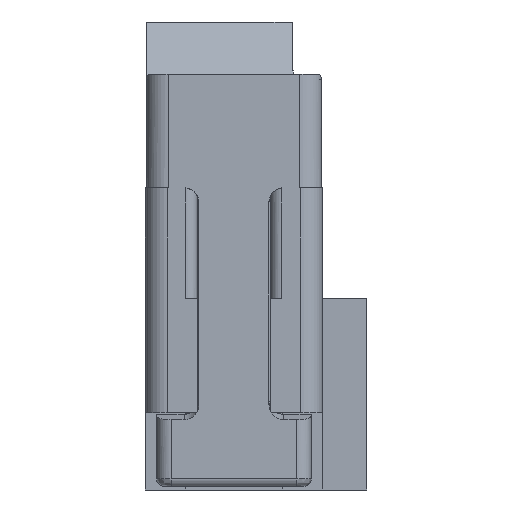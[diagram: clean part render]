
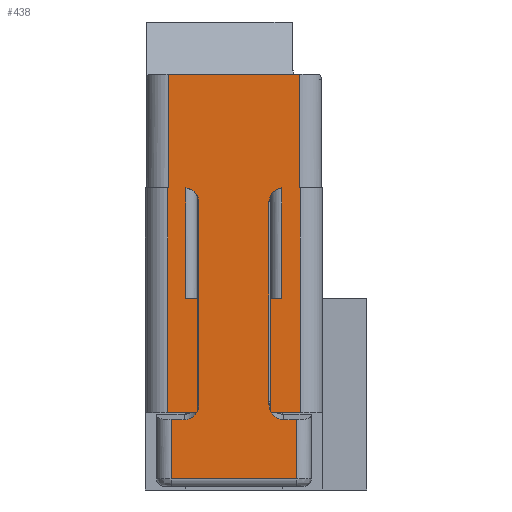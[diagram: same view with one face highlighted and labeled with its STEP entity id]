
A CAD part, front view. The second image highlights one B-rep face of the part: STEP entity #438.
In plain terms, the highlighted planar face has unit normal (0, -1, 0).
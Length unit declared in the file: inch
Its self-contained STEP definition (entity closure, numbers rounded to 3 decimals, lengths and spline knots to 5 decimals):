
#274=FACE_BOUND('',#1869,.T.);
#275=FACE_BOUND('',#1870,.T.);
#341=(
BOUNDED_CURVE()
B_SPLINE_CURVE(3,(#13261,#13262,#13263,#13264,#13265),.UNSPECIFIED.,.F.,
.F.)
B_SPLINE_CURVE_WITH_KNOTS((4,1,4),(0.,0.5,1.),.UNSPECIFIED.)
CURVE()
GEOMETRIC_REPRESENTATION_ITEM()
RATIONAL_B_SPLINE_CURVE((1.067,1.022,0.978,
1.022,1.067))
REPRESENTATION_ITEM('')
);
#342=(
BOUNDED_CURVE()
B_SPLINE_CURVE(3,(#13425,#13426,#13427,#13428,#13429),.UNSPECIFIED.,.F.,
.F.)
B_SPLINE_CURVE_WITH_KNOTS((4,1,4),(0.,0.5,1.),.UNSPECIFIED.)
CURVE()
GEOMETRIC_REPRESENTATION_ITEM()
RATIONAL_B_SPLINE_CURVE((1.016,1.005,0.995,
1.005,1.016))
REPRESENTATION_ITEM('')
);
#343=(
BOUNDED_CURVE()
B_SPLINE_CURVE(3,(#13439,#13440,#13441,#13442,#13443),.UNSPECIFIED.,.F.,
.F.)
B_SPLINE_CURVE_WITH_KNOTS((4,1,4),(0.,0.5,1.),.UNSPECIFIED.)
CURVE()
GEOMETRIC_REPRESENTATION_ITEM()
RATIONAL_B_SPLINE_CURVE((1.016,1.005,0.995,
1.005,1.016))
REPRESENTATION_ITEM('')
);
#350=(
BOUNDED_CURVE()
B_SPLINE_CURVE(3,(#14084,#14085,#14086,#14087,#14088),.UNSPECIFIED.,.F.,
.F.)
B_SPLINE_CURVE_WITH_KNOTS((4,1,4),(0.,0.5,1.),.UNSPECIFIED.)
CURVE()
GEOMETRIC_REPRESENTATION_ITEM()
RATIONAL_B_SPLINE_CURVE((1.067,1.022,0.978,
1.022,1.067))
REPRESENTATION_ITEM('')
);
#438=ADVANCED_FACE('',(#1361,#274,#275),#893,.T.);
#893=PLANE('',#9586);
#1361=FACE_OUTER_BOUND('',#1868,.T.);
#1868=EDGE_LOOP('',(#2976,#2977,#2978,#2979,#2980,#2981,#2982,#2983,#2984,
#2985,#2986,#2987,#2988,#2989,#2990,#2991));
#1869=EDGE_LOOP('',(#2992,#2993,#2994,#2995,#2996,#2997));
#1870=EDGE_LOOP('',(#2998,#2999,#3000,#3001,#3002,#3003));
#2378=CIRCLE('',#9514,0.02);
#2399=CIRCLE('',#9585,0.02);
#2976=ORIENTED_EDGE('',*,*,#6287,.T.);
#2977=ORIENTED_EDGE('',*,*,#6288,.T.);
#2978=ORIENTED_EDGE('',*,*,#6289,.F.);
#2979=ORIENTED_EDGE('',*,*,#6290,.T.);
#2980=ORIENTED_EDGE('',*,*,#6291,.T.);
#2981=ORIENTED_EDGE('',*,*,#6292,.T.);
#2982=ORIENTED_EDGE('',*,*,#6293,.F.);
#2983=ORIENTED_EDGE('',*,*,#6128,.T.);
#2984=ORIENTED_EDGE('',*,*,#6092,.T.);
#2985=ORIENTED_EDGE('',*,*,#6142,.T.);
#2986=ORIENTED_EDGE('',*,*,#5921,.T.);
#2987=ORIENTED_EDGE('',*,*,#6026,.T.);
#2988=ORIENTED_EDGE('',*,*,#6294,.T.);
#2989=ORIENTED_EDGE('',*,*,#6295,.T.);
#2990=ORIENTED_EDGE('',*,*,#5911,.T.);
#2991=ORIENTED_EDGE('',*,*,#6139,.T.);
#2992=ORIENTED_EDGE('',*,*,#6167,.T.);
#2993=ORIENTED_EDGE('',*,*,#6100,.F.);
#2994=ORIENTED_EDGE('',*,*,#6296,.T.);
#2995=ORIENTED_EDGE('',*,*,#6297,.T.);
#2996=ORIENTED_EDGE('',*,*,#6298,.T.);
#2997=ORIENTED_EDGE('',*,*,#6299,.T.);
#2998=ORIENTED_EDGE('',*,*,#6073,.T.);
#2999=ORIENTED_EDGE('',*,*,#6162,.T.);
#3000=ORIENTED_EDGE('',*,*,#6300,.F.);
#3001=ORIENTED_EDGE('',*,*,#6064,.T.);
#3002=ORIENTED_EDGE('',*,*,#6301,.F.);
#3003=ORIENTED_EDGE('',*,*,#6302,.T.);
#5055=VERTEX_POINT('',#12290);
#5056=VERTEX_POINT('',#12292);
#5065=VERTEX_POINT('',#12310);
#5066=VERTEX_POINT('',#12312);
#5156=VERTEX_POINT('',#12770);
#5169=VERTEX_POINT('',#12832);
#5183=VERTEX_POINT('',#12985);
#5184=VERTEX_POINT('',#12987);
#5190=VERTEX_POINT('',#13016);
#5192=VERTEX_POINT('',#13019);
#5203=VERTEX_POINT('',#13071);
#5207=VERTEX_POINT('',#13095);
#5209=VERTEX_POINT('',#13100);
#5214=VERTEX_POINT('',#13126);
#5233=VERTEX_POINT('',#13266);
#5238=VERTEX_POINT('',#13288);
#5250=VERTEX_POINT('',#13430);
#5253=VERTEX_POINT('',#13444);
#5332=VERTEX_POINT('',#14083);
#5333=VERTEX_POINT('',#14089);
#5334=VERTEX_POINT('',#14091);
#5335=VERTEX_POINT('',#14093);
#5336=VERTEX_POINT('',#14096);
#5337=VERTEX_POINT('',#14099);
#5338=VERTEX_POINT('',#14102);
#5339=VERTEX_POINT('',#14104);
#5340=VERTEX_POINT('',#14106);
#5341=VERTEX_POINT('',#14110);
#5911=EDGE_CURVE('',#5056,#5055,#7220,.T.);
#5921=EDGE_CURVE('',#5066,#5065,#7228,.T.);
#6026=EDGE_CURVE('',#5065,#5156,#7296,.T.);
#6064=EDGE_CURVE('',#5184,#5183,#2378,.T.);
#6073=EDGE_CURVE('',#5192,#5190,#7314,.T.);
#6092=EDGE_CURVE('',#5203,#5207,#7327,.T.);
#6100=EDGE_CURVE('',#5214,#5209,#7334,.T.);
#6128=EDGE_CURVE('',#5233,#5203,#341,.T.);
#6139=EDGE_CURVE('',#5055,#5238,#7360,.T.);
#6142=EDGE_CURVE('',#5207,#5066,#7363,.T.);
#6162=EDGE_CURVE('',#5190,#5250,#342,.T.);
#6167=EDGE_CURVE('',#5253,#5209,#343,.T.);
#6287=EDGE_CURVE('',#5238,#5332,#7450,.T.);
#6288=EDGE_CURVE('',#5332,#5333,#350,.T.);
#6289=EDGE_CURVE('',#5334,#5333,#7451,.T.);
#6290=EDGE_CURVE('',#5334,#5335,#7452,.T.);
#6291=EDGE_CURVE('',#5335,#5169,#7453,.T.);
#6292=EDGE_CURVE('',#5169,#5336,#7454,.T.);
#6293=EDGE_CURVE('',#5233,#5336,#7455,.T.);
#6294=EDGE_CURVE('',#5156,#5337,#7456,.T.);
#6295=EDGE_CURVE('',#5337,#5056,#7457,.T.);
#6296=EDGE_CURVE('',#5214,#5338,#7458,.T.);
#6297=EDGE_CURVE('',#5338,#5339,#7459,.T.);
#6298=EDGE_CURVE('',#5339,#5340,#2399,.T.);
#6299=EDGE_CURVE('',#5340,#5253,#7460,.T.);
#6300=EDGE_CURVE('',#5184,#5250,#7461,.T.);
#6301=EDGE_CURVE('',#5341,#5183,#7462,.T.);
#6302=EDGE_CURVE('',#5341,#5192,#7463,.T.);
#7220=LINE('',#12291,#8344);
#7228=LINE('',#12311,#8352);
#7296=LINE('',#12771,#8420);
#7314=LINE('',#13018,#8438);
#7327=LINE('',#13096,#8451);
#7334=LINE('',#13127,#8458);
#7360=LINE('',#13290,#8484);
#7363=LINE('',#13294,#8487);
#7450=LINE('',#14082,#8574);
#7451=LINE('',#14090,#8575);
#7452=LINE('',#14092,#8576);
#7453=LINE('',#14094,#8577);
#7454=LINE('',#14095,#8578);
#7455=LINE('',#14097,#8579);
#7456=LINE('',#14098,#8580);
#7457=LINE('',#14100,#8581);
#7458=LINE('',#14101,#8582);
#7459=LINE('',#14103,#8583);
#7460=LINE('',#14107,#8584);
#7461=LINE('',#14108,#8585);
#7462=LINE('',#14109,#8586);
#7463=LINE('',#14111,#8587);
#8344=VECTOR('',#10038,1.);
#8352=VECTOR('',#10050,1.);
#8420=VECTOR('',#10172,1.);
#8438=VECTOR('',#10238,1.);
#8451=VECTOR('',#10257,1.);
#8458=VECTOR('',#10266,1.);
#8484=VECTOR('',#10316,1.);
#8487=VECTOR('',#10321,1.);
#8574=VECTOR('',#10504,1.);
#8575=VECTOR('',#10505,1.);
#8576=VECTOR('',#10506,1.);
#8577=VECTOR('',#10507,1.);
#8578=VECTOR('',#10508,1.);
#8579=VECTOR('',#10509,1.);
#8580=VECTOR('',#10510,1.);
#8581=VECTOR('',#10511,1.);
#8582=VECTOR('',#10512,1.);
#8583=VECTOR('',#10513,1.);
#8584=VECTOR('',#10516,1.);
#8585=VECTOR('',#10517,1.);
#8586=VECTOR('',#10518,1.);
#8587=VECTOR('',#10519,1.);
#9514=AXIS2_PLACEMENT_3D('',#12986,#10224,#10225);
#9585=AXIS2_PLACEMENT_3D('',#14105,#10514,#10515);
#9586=AXIS2_PLACEMENT_3D('',#14112,#10520,#10521);
#10038=DIRECTION('',(-1.,0.,0.));
#10050=DIRECTION('',(-1.,0.,0.));
#10172=DIRECTION('',(0.,0.,1.));
#10224=DIRECTION('',(0.,1.,0.));
#10225=DIRECTION('',(0.,0.,-1.));
#10238=DIRECTION('',(0.,0.,-1.));
#10257=DIRECTION('',(1.,0.,0.));
#10266=DIRECTION('',(0.,0.,-1.));
#10316=DIRECTION('',(0.,0.,-1.));
#10321=DIRECTION('',(0.,0.,1.));
#10504=DIRECTION('',(1.,0.,0.));
#10505=DIRECTION('',(1.,0.,0.));
#10506=DIRECTION('',(0.,0.,-1.));
#10507=DIRECTION('',(1.,0.,0.));
#10508=DIRECTION('',(0.,0.,1.));
#10509=DIRECTION('',(1.,0.,0.));
#10510=DIRECTION('',(-1.,0.,0.));
#10511=DIRECTION('',(0.,0.,-1.));
#10512=DIRECTION('',(-1.,0.,0.));
#10513=DIRECTION('',(0.,0.,1.));
#10514=DIRECTION('',(0.,1.,0.));
#10515=DIRECTION('',(0.,0.,-1.));
#10516=DIRECTION('',(0.,0.,-1.));
#10517=DIRECTION('',(0.,0.,-1.));
#10518=DIRECTION('',(0.,0.,1.));
#10519=DIRECTION('',(-1.,0.,0.));
#10520=DIRECTION('',(0.,-1.,0.));
#10521=DIRECTION('',(0.,0.,-1.));
#12290=CARTESIAN_POINT('',(0.03,0.,0.41));
#12291=CARTESIAN_POINT('',(0.031,0.,0.41));
#12292=CARTESIAN_POINT('',(0.031,0.,0.41));
#12310=CARTESIAN_POINT('',(0.209,0.,0.41));
#12311=CARTESIAN_POINT('',(0.21,0.,0.41));
#12312=CARTESIAN_POINT('',(0.21,0.,0.41));
#12770=CARTESIAN_POINT('',(0.209,0.,0.564));
#12771=CARTESIAN_POINT('',(0.209,0.,0.41));
#12832=CARTESIAN_POINT('',(0.205,0.,0.015));
#12985=CARTESIAN_POINT('',(0.185,0.,0.40984));
#12986=CARTESIAN_POINT('',(0.1875,0.,0.39));
#12987=CARTESIAN_POINT('',(0.1675,0.,0.39));
#13016=CARTESIAN_POINT('',(0.17,0.,0.10596));
#13018=CARTESIAN_POINT('',(0.17,0.,0.26));
#13019=CARTESIAN_POINT('',(0.17,0.,0.26));
#13071=CARTESIAN_POINT('',(0.17055,0.,0.105));
#13095=CARTESIAN_POINT('',(0.21,0.,0.105));
#13096=CARTESIAN_POINT('',(0.17055,0.,0.105));
#13100=CARTESIAN_POINT('',(0.07,0.,0.10596));
#13126=CARTESIAN_POINT('',(0.07,0.,0.26));
#13127=CARTESIAN_POINT('',(0.07,0.,0.26));
#13261=CARTESIAN_POINT('',(0.1875,0.,0.09528));
#13262=CARTESIAN_POINT('',(0.18413,0.,0.09528));
#13263=CARTESIAN_POINT('',(0.17737,0.,0.09705));
#13264=CARTESIAN_POINT('',(0.17234,0.,0.10204));
#13265=CARTESIAN_POINT('',(0.17055,0.,0.105));
#13266=CARTESIAN_POINT('',(0.1875,0.,0.09528));
#13288=CARTESIAN_POINT('',(0.03,0.,0.105));
#13290=CARTESIAN_POINT('',(0.03,0.,0.41));
#13294=CARTESIAN_POINT('',(0.21,0.,0.105));
#13425=CARTESIAN_POINT('',(0.17,0.,0.10596));
#13426=CARTESIAN_POINT('',(0.16918,0.,0.10749));
#13427=CARTESIAN_POINT('',(0.16793,0.,0.11076));
#13428=CARTESIAN_POINT('',(0.1675,0.,0.11424));
#13429=CARTESIAN_POINT('',(0.1675,0.,0.11599));
#13430=CARTESIAN_POINT('',(0.1675,0.,0.11599));
#13439=CARTESIAN_POINT('',(0.0725,0.,0.11599));
#13440=CARTESIAN_POINT('',(0.0725,0.,0.11424));
#13441=CARTESIAN_POINT('',(0.07207,0.,0.11076));
#13442=CARTESIAN_POINT('',(0.07082,0.,0.10749));
#13443=CARTESIAN_POINT('',(0.07,0.,0.10596));
#13444=CARTESIAN_POINT('',(0.0725,0.,0.11599));
#14082=CARTESIAN_POINT('',(0.03,0.,0.105));
#14083=CARTESIAN_POINT('',(0.06945,0.,0.105));
#14084=CARTESIAN_POINT('',(0.06945,0.,0.105));
#14085=CARTESIAN_POINT('',(0.06766,0.,0.10204));
#14086=CARTESIAN_POINT('',(0.06263,0.,0.09705));
#14087=CARTESIAN_POINT('',(0.05587,0.,0.09528));
#14088=CARTESIAN_POINT('',(0.0525,0.,0.09528));
#14089=CARTESIAN_POINT('',(0.0525,0.,0.09528));
#14090=CARTESIAN_POINT('',(0.035,0.,0.09528));
#14091=CARTESIAN_POINT('',(0.035,0.,0.09528));
#14092=CARTESIAN_POINT('',(0.035,0.,0.09528));
#14093=CARTESIAN_POINT('',(0.035,0.,0.015));
#14094=CARTESIAN_POINT('',(0.035,0.,0.015));
#14095=CARTESIAN_POINT('',(0.205,0.,0.015));
#14096=CARTESIAN_POINT('',(0.205,0.,0.09528));
#14097=CARTESIAN_POINT('',(0.1875,0.,0.09528));
#14098=CARTESIAN_POINT('',(0.209,0.,0.564));
#14099=CARTESIAN_POINT('',(0.031,0.,0.564));
#14100=CARTESIAN_POINT('',(0.031,0.,0.564));
#14101=CARTESIAN_POINT('',(0.07,0.,0.26));
#14102=CARTESIAN_POINT('',(0.055,0.,0.26));
#14103=CARTESIAN_POINT('',(0.055,0.,0.26));
#14104=CARTESIAN_POINT('',(0.055,0.,0.40984));
#14105=CARTESIAN_POINT('',(0.0525,0.,0.39));
#14106=CARTESIAN_POINT('',(0.0725,0.,0.39));
#14107=CARTESIAN_POINT('',(0.0725,0.,0.39));
#14108=CARTESIAN_POINT('',(0.1675,0.,0.39));
#14109=CARTESIAN_POINT('',(0.185,0.,0.26));
#14110=CARTESIAN_POINT('',(0.185,0.,0.26));
#14111=CARTESIAN_POINT('',(0.185,0.,0.26));
#14112=CARTESIAN_POINT('',(0.12,0.,0.));
